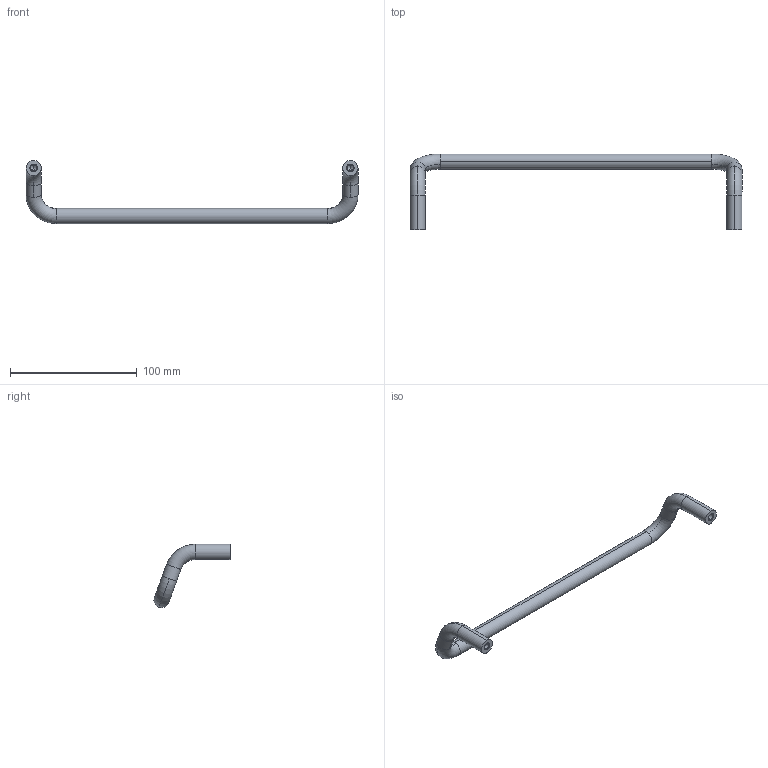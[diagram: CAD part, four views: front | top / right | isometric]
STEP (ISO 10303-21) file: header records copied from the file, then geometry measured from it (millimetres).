
FILE_DESCRIPTION (( 'STEP AP214' ), '1' );
FILE_NAME ('425.1-AL-12-250-SW.step', '2019-11-13T07:31:23', ( '' ), ( '' ), 'SwSTEP 2.0', 'SolidWorks 2019', '' );
FILE_SCHEMA (( 'AUTOMOTIVE_DESIGN' ));
Length unit declared in the file: millimetre
Products named in the file (1): 425.1-AL-12-250-SW
Bounding box: 262 x 60 x 50 mm (x, y, z)
Volume: 43419 mm3; surface area: 15372.5 mm2
Topology: 1 solids, 1 shells, 32 faces, 74 edges, 42 vertices
Faces by surface type: cylinder 14, torus 8, cone 8, plane 2
Entity records: 990 total; most frequent: DIRECTION 184, CARTESIAN_POINT 145, ORIENTED_EDGE 140, AXIS2_PLACEMENT_3D 81, EDGE_CURVE 70, CIRCLE 48, VERTEX_POINT 42, EDGE_LOOP 34
